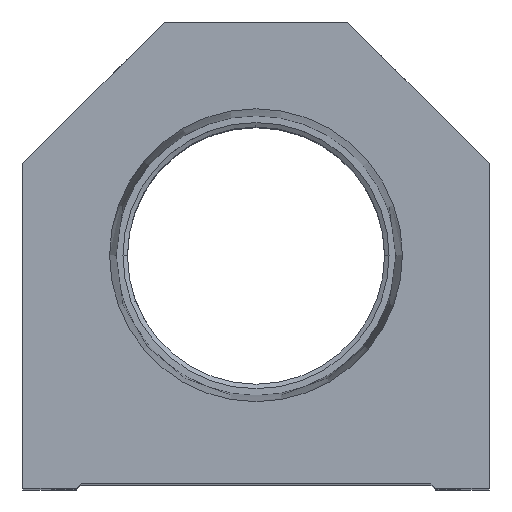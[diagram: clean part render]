
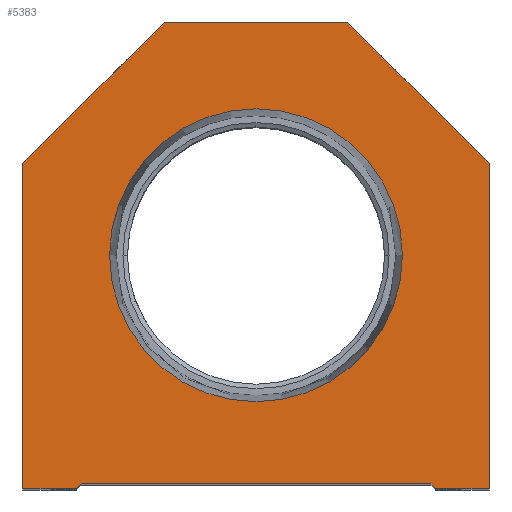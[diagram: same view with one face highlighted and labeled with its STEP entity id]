
A CAD part, top view. The second image highlights one B-rep face of the part: STEP entity #5383.
In plain terms, the highlighted planar face has unit normal (0, 0, 1).
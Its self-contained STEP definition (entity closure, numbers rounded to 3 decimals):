
#383 = CARTESIAN_POINT ( 'NONE',  ( 25.4, 0., 0. ) ) ;
#530 = EDGE_LOOP ( 'NONE', ( #8857, #10560 ) ) ;
#727 = DIRECTION ( 'NONE',  ( 1., 0., 0. ) ) ;
#929 = CARTESIAN_POINT ( 'NONE',  ( 19.05, 0.5, 0. ) ) ;
#1092 = DIRECTION ( 'NONE',  ( 1., 0., 0. ) ) ;
#1116 = VERTEX_POINT ( 'NONE', #11722 ) ;
#1192 = LINE ( 'NONE', #4021, #14830 ) ;
#1275 = DIRECTION ( 'NONE',  ( 1., 0., 0. ) ) ;
#1376 = EDGE_CURVE ( 'NONE', #7921, #4477, #6233, .T. ) ;
#2408 = VERTEX_POINT ( 'NONE', #10016 ) ;
#2557 = EDGE_CURVE ( 'NONE', #11317, #15057, #9233, .T. ) ;
#2680 = CARTESIAN_POINT ( 'NONE',  ( -19.05, 0.5, 0. ) ) ;
#2720 = AXIS2_PLACEMENT_3D ( 'NONE', #16673, #7652, #727 ) ;
#3206 = VERTEX_POINT ( 'NONE', #4170 ) ;
#3627 = AXIS2_PLACEMENT_3D ( 'NONE', #8890, #17366, #1092 ) ;
#3755 = DIRECTION ( 'NONE',  ( 0., -1., 0. ) ) ;
#3824 = EDGE_CURVE ( 'NONE', #14759, #7921, #15164, .T. ) ;
#4021 = CARTESIAN_POINT ( 'NONE',  ( 19.05, 0., 0. ) ) ;
#4157 = VECTOR ( 'NONE', #7162, 1000. ) ;
#4170 = CARTESIAN_POINT ( 'NONE',  ( 10., 50.8, 0. ) ) ;
#4467 = AXIS2_PLACEMENT_3D ( 'NONE', #16343, #13596, #13341 ) ;
#4477 = VERTEX_POINT ( 'NONE', #15256 ) ;
#4498 = EDGE_CURVE ( 'NONE', #15057, #12072, #8378, .T. ) ;
#4583 = DIRECTION ( 'NONE',  ( -1., 0., 0. ) ) ;
#4647 = LINE ( 'NONE', #383, #6998 ) ;
#5383 = ADVANCED_FACE ( 'NONE', ( #6314, #17280 ), #17105, .T. ) ;
#5506 = VERTEX_POINT ( 'NONE', #16462 ) ;
#5617 = CARTESIAN_POINT ( 'NONE',  ( -15.947, 25.4, 0. ) ) ;
#5709 = CARTESIAN_POINT ( 'NONE',  ( -19.05, 0.5, 0. ) ) ;
#5801 = CIRCLE ( 'NONE', #2720, 15.947 ) ;
#5826 = CARTESIAN_POINT ( 'NONE',  ( 25.4, 35.4, 0. ) ) ;
#6032 = VERTEX_POINT ( 'NONE', #5617 ) ;
#6074 = LINE ( 'NONE', #8573, #14044 ) ;
#6108 = EDGE_LOOP ( 'NONE', ( #13157, #14287, #16422, #15780, #15386, #16591, #6222, #6908, #9060, #16828 ) ) ;
#6166 = CARTESIAN_POINT ( 'NONE',  ( -25.4, 35.4, 0. ) ) ;
#6222 = ORIENTED_EDGE ( 'NONE', *, *, #14460, .T. ) ;
#6233 = LINE ( 'NONE', #15693, #7121 ) ;
#6279 = VECTOR ( 'NONE', #17344, 1000. ) ;
#6314 = FACE_BOUND ( 'NONE', #530, .T. ) ;
#6908 = ORIENTED_EDGE ( 'NONE', *, *, #17004, .T. ) ;
#6998 = VECTOR ( 'NONE', #16693, 1000. ) ;
#7048 = DIRECTION ( 'NONE',  ( -0.707, -0.707, 0. ) ) ;
#7121 = VECTOR ( 'NONE', #3755, 1000. ) ;
#7162 = DIRECTION ( 'NONE',  ( -0.707, 0.707, 0. ) ) ;
#7188 = VECTOR ( 'NONE', #4583, 1000. ) ;
#7405 = CARTESIAN_POINT ( 'NONE',  ( -10., 50.8, 0. ) ) ;
#7652 = DIRECTION ( 'NONE',  ( 0., 0., 1. ) ) ;
#7899 = VECTOR ( 'NONE', #11098, 1000. ) ;
#7916 = CARTESIAN_POINT ( 'NONE',  ( 15.947, 25.4, 0. ) ) ;
#7921 = VERTEX_POINT ( 'NONE', #6166 ) ;
#8002 = EDGE_CURVE ( 'NONE', #2408, #1116, #1192, .T. ) ;
#8146 = CIRCLE ( 'NONE', #4467, 15.947 ) ;
#8378 = LINE ( 'NONE', #5709, #7899 ) ;
#8496 = LINE ( 'NONE', #5826, #4157 ) ;
#8537 = LINE ( 'NONE', #10114, #13520 ) ;
#8573 = CARTESIAN_POINT ( 'NONE',  ( 9.775, 9.775, 0. ) ) ;
#8857 = ORIENTED_EDGE ( 'NONE', *, *, #12774, .F. ) ;
#8890 = CARTESIAN_POINT ( 'NONE',  ( 0., 0., 0. ) ) ;
#9060 = ORIENTED_EDGE ( 'NONE', *, *, #3824, .T. ) ;
#9144 = CARTESIAN_POINT ( 'NONE',  ( -9.775, 9.775, 0. ) ) ;
#9233 = LINE ( 'NONE', #9144, #6279 ) ;
#10016 = CARTESIAN_POINT ( 'NONE',  ( 19.55, 0., 0. ) ) ;
#10108 = VERTEX_POINT ( 'NONE', #7916 ) ;
#10114 = CARTESIAN_POINT ( 'NONE',  ( -19.05, 0., 0. ) ) ;
#10267 = EDGE_CURVE ( 'NONE', #4477, #11317, #8537, .T. ) ;
#10560 = ORIENTED_EDGE ( 'NONE', *, *, #10574, .F. ) ;
#10574 = EDGE_CURVE ( 'NONE', #6032, #10108, #8146, .T. ) ;
#11098 = DIRECTION ( 'NONE',  ( 1., 0., 0. ) ) ;
#11317 = VERTEX_POINT ( 'NONE', #15098 ) ;
#11473 = LINE ( 'NONE', #14623, #7188 ) ;
#11598 = DIRECTION ( 'NONE',  ( 1., 0., 0. ) ) ;
#11722 = CARTESIAN_POINT ( 'NONE',  ( 25.4, 0., 0. ) ) ;
#12072 = VERTEX_POINT ( 'NONE', #929 ) ;
#12774 = EDGE_CURVE ( 'NONE', #10108, #6032, #5801, .T. ) ;
#12876 = DIRECTION ( 'NONE',  ( 0.707, -0.707, 0. ) ) ;
#13157 = ORIENTED_EDGE ( 'NONE', *, *, #10267, .T. ) ;
#13341 = DIRECTION ( 'NONE',  ( 1., 0., 0. ) ) ;
#13520 = VECTOR ( 'NONE', #11598, 1000. ) ;
#13596 = DIRECTION ( 'NONE',  ( 0., 0., 1. ) ) ;
#14044 = VECTOR ( 'NONE', #12876, 1000. ) ;
#14287 = ORIENTED_EDGE ( 'NONE', *, *, #2557, .T. ) ;
#14460 = EDGE_CURVE ( 'NONE', #5506, #3206, #8496, .T. ) ;
#14623 = CARTESIAN_POINT ( 'NONE',  ( 10., 50.8, 0. ) ) ;
#14730 = EDGE_CURVE ( 'NONE', #1116, #5506, #4647, .T. ) ;
#14759 = VERTEX_POINT ( 'NONE', #7405 ) ;
#14830 = VECTOR ( 'NONE', #1275, 1000. ) ;
#15057 = VERTEX_POINT ( 'NONE', #2680 ) ;
#15098 = CARTESIAN_POINT ( 'NONE',  ( -19.55, 0., 0. ) ) ;
#15164 = LINE ( 'NONE', #16494, #17473 ) ;
#15256 = CARTESIAN_POINT ( 'NONE',  ( -25.4, 0., 0. ) ) ;
#15386 = ORIENTED_EDGE ( 'NONE', *, *, #8002, .T. ) ;
#15693 = CARTESIAN_POINT ( 'NONE',  ( -25.4, 0., 0. ) ) ;
#15780 = ORIENTED_EDGE ( 'NONE', *, *, #16263, .T. ) ;
#16263 = EDGE_CURVE ( 'NONE', #12072, #2408, #6074, .T. ) ;
#16343 = CARTESIAN_POINT ( 'NONE',  ( 0., 25.4, 0. ) ) ;
#16422 = ORIENTED_EDGE ( 'NONE', *, *, #4498, .T. ) ;
#16462 = CARTESIAN_POINT ( 'NONE',  ( 25.4, 35.4, 0. ) ) ;
#16494 = CARTESIAN_POINT ( 'NONE',  ( -25.4, 35.4, 0. ) ) ;
#16591 = ORIENTED_EDGE ( 'NONE', *, *, #14730, .T. ) ;
#16673 = CARTESIAN_POINT ( 'NONE',  ( 0., 25.4, 0. ) ) ;
#16693 = DIRECTION ( 'NONE',  ( 0., 1., 0. ) ) ;
#16828 = ORIENTED_EDGE ( 'NONE', *, *, #1376, .T. ) ;
#17004 = EDGE_CURVE ( 'NONE', #3206, #14759, #11473, .T. ) ;
#17105 = PLANE ( 'NONE',  #3627 ) ;
#17280 = FACE_OUTER_BOUND ( 'NONE', #6108, .T. ) ;
#17344 = DIRECTION ( 'NONE',  ( 0.707, 0.707, 0. ) ) ;
#17366 = DIRECTION ( 'NONE',  ( 0., 0., 1. ) ) ;
#17473 = VECTOR ( 'NONE', #7048, 1000. ) ;
